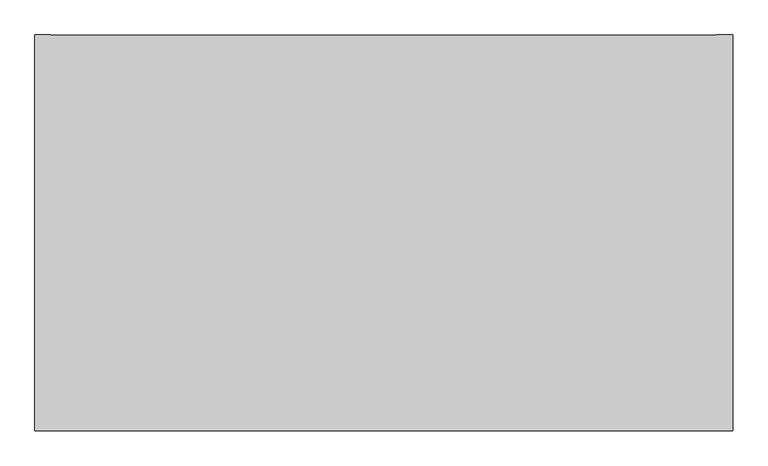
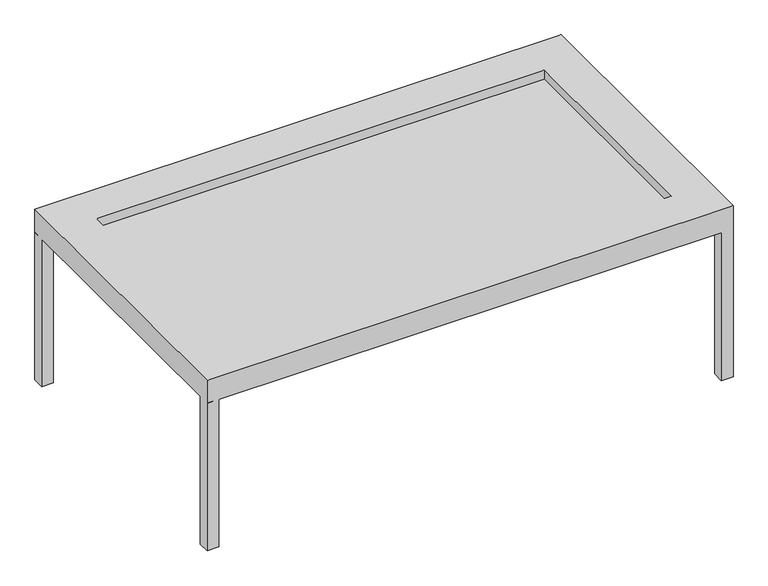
"""IFC4 building model written with IfcOpenShell, lengths in millimetres: geographic element geometry, Enscape AssetDefinition - Billiard Table 002 : Enscape AssetDefinition - Billiard Table 002."""

from ifc_helpers import new_model, si_unit, origin, place, context, project, spatial, triangles, source, transform, mapped, element, save


def geographic_element_bfdd2f6c(model_context):
    return source(origin(), model_context, "Body", "Tessellation", [
        triangles([(1194.6453215, -539.0793045, 0.0), (1194.6453215, -590.4335827, 0.0), (1246.482637, -539.0793045, 0.0), (1246.482637, -590.4335827, 0.0), (1246.482637, -590.4335827, 684.3422401), (1194.6453215, -590.4335827, 684.3422401), (1194.6453215, -539.0793045, 684.3422401), (1246.482637, -539.0793045, 684.3422401), (1246.482637, 715.8663334, 684.3422401), (-1059.2914467, 715.8663334, 790.9708334), (1246.482637, 715.8663334, 790.9708334), (-889.010416, 544.5963733, 790.9708334), (1246.482637, -590.4335827, 790.9708334), (1074.7015526, -418.6925757, 790.9708334), (1074.7015526, 544.5963733, 790.9708334), (-889.010416, 544.5963733, 750.0045839), (-889.010416, -418.6925757, 750.0045839), (1074.7015526, 544.5963733, 750.0045839), (1074.7015526, -418.6925757, 750.0045839), (-1059.2914467, -590.4335827, 790.9708334), (-889.010416, -418.6925757, 790.9708334), (-1059.2914467, 715.8663334, 684.3422401), (-1007.4541311, -590.4335827, 684.3422401), (-1059.2914467, -590.4335827, 684.3422401), (-1059.2914467, -539.0793045, 684.3422401), (-1007.4541311, -539.0793045, 684.3422401), (-1059.2914467, -539.0793045, 0.0), (-1059.2914467, -590.4335827, 0.0), (-1007.4541311, -539.0793045, 0.0), (-1007.4541311, -590.4335827, 0.0), (1194.6453215, 664.99611, 0.0), (1246.482637, 716.3503881, 0.0), (1246.482637, 664.99611, 0.0), (1246.482637, 664.99611, 684.3422401), (1194.6453215, 716.3503881, 0.0), (1246.482637, 716.3503881, 684.3422401), (1194.6453215, 664.99611, 684.3422401), (1194.6453215, 716.3503881, 684.3422401), (-1059.2914467, 716.3503881, 0.0), (-1059.2914467, 664.99611, 0.0), (-1007.4541311, 664.99611, 0.0), (-1007.4541311, 664.99611, 684.3422401), (-1007.4541311, 716.3503881, 0.0), (-1007.4541311, 716.3503881, 684.3422401), (-1059.2914467, 664.99611, 684.3422401), (-1059.2914467, 716.3503881, 684.3422401)], [[45, 44, 46], [45, 42, 44], [41, 44, 42], [43, 46, 44], [41, 43, 44], [39, 45, 46], [43, 39, 46], [39, 40, 45], [40, 42, 45], [40, 41, 42], [40, 43, 41], [40, 39, 43], [37, 36, 38], [37, 34, 36], [33, 36, 34], [32, 38, 36], [33, 32, 36], [35, 37, 38], [32, 35, 38], [35, 31, 37], [31, 34, 37], [31, 33, 34], [31, 32, 33], [31, 35, 32], [28, 29, 30], [28, 27, 29], [29, 27, 25], [29, 25, 26], [30, 29, 26], [30, 26, 23], [28, 30, 23], [27, 24, 25], [27, 28, 24], [28, 23, 24], [24, 26, 25], [24, 23, 26], [22, 24, 20], [22, 20, 10], [21, 19, 17], [10, 20, 21], [21, 14, 19], [20, 14, 21], [14, 18, 19], [17, 19, 18], [17, 18, 16], [12, 17, 16], [12, 21, 17], [10, 21, 12], [15, 16, 18], [15, 12, 16], [14, 15, 18], [13, 15, 14], [20, 13, 14], [24, 13, 20], [11, 12, 15], [11, 10, 12], [13, 11, 15], [9, 10, 11], [9, 22, 10], [24, 22, 9], [5, 11, 13], [5, 9, 11], [24, 5, 13], [24, 9, 5], [6, 8, 7], [6, 5, 8], [4, 8, 5], [3, 7, 8], [4, 3, 8], [1, 6, 7], [3, 1, 7], [1, 2, 6], [2, 5, 6], [2, 4, 5], [2, 3, 4], [2, 1, 3]]),
    ])


if __name__ == "__main__":
    model = new_model("IFC4")
    model_context = context("Model", 3, world=origin())
    ifc_project = project(units=[si_unit("LENGTHUNIT", "METRE", prefix="MILLI")], contexts=[model_context])
    site = spatial("IfcSite", under=ifc_project)
    building = spatial("IfcBuilding", under=site)
    placement = place(None, origin())
    geographic_element_shape = geographic_element_bfdd2f6c(model_context)
    element("IfcGeographicElement", 1, ObjectType="Enscape AssetDefinition - Billiard Table 002 : Enscape AssetDefinition - Billiard Table 002", at=placement, inside=building, context=model_context, shape_type="MappedRepresentation", body=[
        mapped(geographic_element_shape, transform((0.0, 0.0, 0.0), x_axis=(1.0, 0.0, 0.0), y_axis=(0.0, 1.0, 0.0), z_axis=(0.0, 0.0, 1.0))),
    ])
    save(model, "model.ifc")
